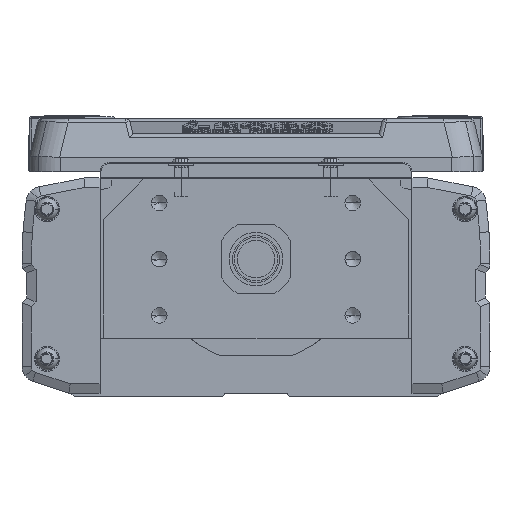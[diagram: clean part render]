
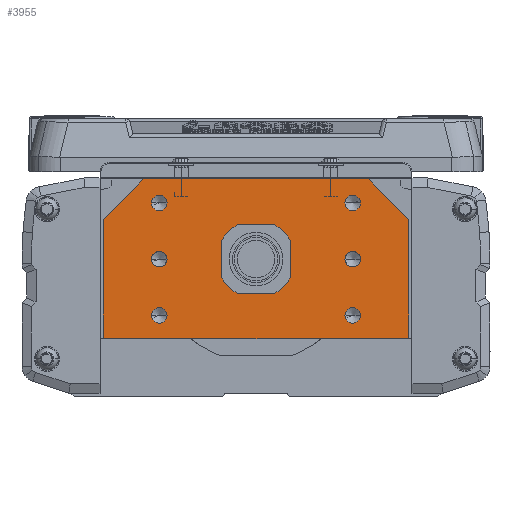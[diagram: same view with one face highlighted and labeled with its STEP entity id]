
A CAD part, left-side view. The second image highlights one B-rep face of the part: STEP entity #3955.
In plain terms, the highlighted planar face has unit normal (-1, 0, 0).
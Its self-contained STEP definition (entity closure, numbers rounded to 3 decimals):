
#3955=ADVANCED_FACE('',(#9556,#9557,#9558,#9559,#9560,#9561,#9562,#9563),#9564,.F.);
#9556=FACE_OUTER_BOUND('',#17373,.T.);
#9557=FACE_BOUND('',#17374,.T.);
#9558=FACE_BOUND('',#17375,.T.);
#9559=FACE_BOUND('',#17376,.T.);
#9560=FACE_BOUND('',#17377,.T.);
#9561=FACE_BOUND('',#17378,.T.);
#9562=FACE_BOUND('',#17379,.T.);
#9563=FACE_BOUND('',#17380,.T.);
#9564=PLANE('',#17381);
#17373=EDGE_LOOP('',(#29738,#29739,#29740,#29741,#29742,#29743,#29744,#29745));
#17374=EDGE_LOOP('',(#29746,#29747));
#17375=EDGE_LOOP('',(#29748,#29749));
#17376=EDGE_LOOP('',(#29750,#29751));
#17377=EDGE_LOOP('',(#29752,#29753));
#17378=EDGE_LOOP('',(#29754,#29755));
#17379=EDGE_LOOP('',(#29756,#29757));
#17380=EDGE_LOOP('',(#29758,#29759));
#17381=AXIS2_PLACEMENT_3D('',#29760,#29761,#29762);
#29738=ORIENTED_EDGE('',*,*,#48532,.F.);
#29739=ORIENTED_EDGE('',*,*,#48533,.F.);
#29740=ORIENTED_EDGE('',*,*,#48534,.F.);
#29741=ORIENTED_EDGE('',*,*,#48535,.F.);
#29742=ORIENTED_EDGE('',*,*,#48536,.F.);
#29743=ORIENTED_EDGE('',*,*,#47782,.F.);
#29744=ORIENTED_EDGE('',*,*,#48047,.F.);
#29745=ORIENTED_EDGE('',*,*,#45180,.F.);
#29746=ORIENTED_EDGE('',*,*,#45393,.T.);
#29747=ORIENTED_EDGE('',*,*,#48537,.T.);
#29748=ORIENTED_EDGE('',*,*,#48538,.T.);
#29749=ORIENTED_EDGE('',*,*,#48539,.T.);
#29750=ORIENTED_EDGE('',*,*,#46534,.T.);
#29751=ORIENTED_EDGE('',*,*,#47362,.T.);
#29752=ORIENTED_EDGE('',*,*,#48540,.T.);
#29753=ORIENTED_EDGE('',*,*,#48541,.T.);
#29754=ORIENTED_EDGE('',*,*,#48542,.T.);
#29755=ORIENTED_EDGE('',*,*,#48543,.T.);
#29756=ORIENTED_EDGE('',*,*,#48544,.T.);
#29757=ORIENTED_EDGE('',*,*,#48545,.T.);
#29758=ORIENTED_EDGE('',*,*,#45774,.F.);
#29759=ORIENTED_EDGE('',*,*,#48546,.F.);
#29760=CARTESIAN_POINT('',(0.,0.275,-2.548));
#29761=DIRECTION('',(1.0,0.,0.));
#29762=DIRECTION('',(0.,1.0,0.));
#45180=EDGE_CURVE('',#53593,#53596,#53597,.T.);
#45393=EDGE_CURVE('',#53970,#53974,#53976,.T.);
#45774=EDGE_CURVE('',#54661,#54656,#54663,.F.);
#46534=EDGE_CURVE('',#55974,#55977,#55979,.T.);
#47362=EDGE_CURVE('',#55977,#55974,#57375,.T.);
#47782=EDGE_CURVE('',#58089,#58092,#58093,.T.);
#48047=EDGE_CURVE('',#53596,#58089,#58506,.T.);
#48532=EDGE_CURVE('',#59317,#53593,#59318,.T.);
#48533=EDGE_CURVE('',#59319,#59317,#59320,.T.);
#48534=EDGE_CURVE('',#59321,#59319,#59322,.T.);
#48535=EDGE_CURVE('',#59323,#59321,#59324,.T.);
#48536=EDGE_CURVE('',#58092,#59323,#59325,.T.);
#48537=EDGE_CURVE('',#53974,#53970,#59326,.T.);
#48538=EDGE_CURVE('',#59327,#59328,#59329,.T.);
#48539=EDGE_CURVE('',#59328,#59327,#59330,.T.);
#48540=EDGE_CURVE('',#59331,#59332,#59333,.T.);
#48541=EDGE_CURVE('',#59332,#59331,#59334,.T.);
#48542=EDGE_CURVE('',#59335,#59336,#59337,.T.);
#48543=EDGE_CURVE('',#59336,#59335,#59338,.T.);
#48544=EDGE_CURVE('',#59339,#59340,#59341,.T.);
#48545=EDGE_CURVE('',#59340,#59339,#59342,.T.);
#48546=EDGE_CURVE('',#54656,#54661,#59343,.F.);
#53593=VERTEX_POINT('',#65848);
#53596=VERTEX_POINT('',#65852);
#53597=LINE('',#65853,#65854);
#53970=VERTEX_POINT('',#66436);
#53974=VERTEX_POINT('',#66441);
#53976=CIRCLE('',#66444,2.5);
#54656=VERTEX_POINT('',#67351);
#54661=VERTEX_POINT('',#67357);
#54663=CIRCLE('',#67360,7.5);
#55974=VERTEX_POINT('',#69133);
#55977=VERTEX_POINT('',#69137);
#55979=CIRCLE('',#69140,2.5);
#57375=CIRCLE('',#72090,2.5);
#58089=VERTEX_POINT('',#73064);
#58092=VERTEX_POINT('',#73068);
#58093=LINE('',#73069,#73070);
#58506=LINE('',#73602,#73603);
#59317=VERTEX_POINT('',#74758);
#59318=LINE('',#74759,#74760);
#59319=VERTEX_POINT('',#74761);
#59320=LINE('',#74762,#74763);
#59321=VERTEX_POINT('',#74764);
#59322=LINE('',#74765,#74766);
#59323=VERTEX_POINT('',#74767);
#59324=LINE('',#74768,#74769);
#59325=LINE('',#74770,#74771);
#59326=CIRCLE('',#74772,2.5);
#59327=VERTEX_POINT('',#74773);
#59328=VERTEX_POINT('',#74774);
#59329=CIRCLE('',#74775,2.5);
#59330=CIRCLE('',#74776,2.5);
#59331=VERTEX_POINT('',#74777);
#59332=VERTEX_POINT('',#74778);
#59333=CIRCLE('',#74779,2.5);
#59334=CIRCLE('',#74780,2.5);
#59335=VERTEX_POINT('',#74781);
#59336=VERTEX_POINT('',#74782);
#59337=CIRCLE('',#74783,2.5);
#59338=CIRCLE('',#74784,2.5);
#59339=VERTEX_POINT('',#74785);
#59340=VERTEX_POINT('',#74786);
#59341=CIRCLE('',#74787,2.5);
#59342=CIRCLE('',#74788,2.5);
#59343=CIRCLE('',#74789,7.5);
#65848=CARTESIAN_POINT('',(0.,36.,25.7));
#65852=CARTESIAN_POINT('',(0.,-36.,25.7));
#65853=CARTESIAN_POINT('',(0.,34.5,25.7));
#65854=VECTOR('',#83794,10.0);
#66436=CARTESIAN_POINT('',(0.,33.5,-18.));
#66441=CARTESIAN_POINT('',(0.,28.5,-18.));
#66444=AXIS2_PLACEMENT_3D('',#84087,#84088,#84089);
#67351=CARTESIAN_POINT('',(0.,-7.5,0.));
#67357=CARTESIAN_POINT('',(0.,7.5,0.));
#67360=AXIS2_PLACEMENT_3D('',#84688,#84689,#84690);
#69133=CARTESIAN_POINT('',(0.,33.5,18.));
#69137=CARTESIAN_POINT('',(0.,28.5,18.));
#69140=AXIS2_PLACEMENT_3D('',#85756,#85757,#85758);
#72090=AXIS2_PLACEMENT_3D('',#86952,#86953,#86954);
#73064=CARTESIAN_POINT('',(0.,-49.,12.7));
#73068=CARTESIAN_POINT('',(0.,-49.,-25.));
#73069=CARTESIAN_POINT('',(0.,-49.,-14.));
#73070=VECTOR('',#87598,10.0);
#73602=CARTESIAN_POINT('',(0.,-37.243,24.457));
#73603=VECTOR('',#87972,10.0);
#74758=CARTESIAN_POINT('',(0.,49.,12.7));
#74759=CARTESIAN_POINT('',(0.,37.381,24.319));
#74760=VECTOR('',#88702,10.);
#74761=CARTESIAN_POINT('',(0.,49.,-25.));
#74762=CARTESIAN_POINT('',(0.,49.,-25.));
#74763=VECTOR('',#88703,10.0);
#74764=CARTESIAN_POINT('',(0.,48.5,-25.5));
#74765=CARTESIAN_POINT('',(0.,48.5,-25.5));
#74766=VECTOR('',#88704,10.0);
#74767=CARTESIAN_POINT('',(0.,-48.5,-25.5));
#74768=CARTESIAN_POINT('',(0.,0.,-25.5));
#74769=VECTOR('',#88705,10.0);
#74770=CARTESIAN_POINT('',(0.,-49.,-25.));
#74771=VECTOR('',#88706,10.0);
#74772=AXIS2_PLACEMENT_3D('',#88707,#88708,#88709);
#74773=CARTESIAN_POINT('',(0.,-33.5,-18.));
#74774=CARTESIAN_POINT('',(0.,-28.5,-18.));
#74775=AXIS2_PLACEMENT_3D('',#88710,#88711,#88712);
#74776=AXIS2_PLACEMENT_3D('',#88713,#88714,#88715);
#74777=CARTESIAN_POINT('',(0.,-33.5,18.));
#74778=CARTESIAN_POINT('',(0.,-28.5,18.));
#74779=AXIS2_PLACEMENT_3D('',#88716,#88717,#88718);
#74780=AXIS2_PLACEMENT_3D('',#88719,#88720,#88721);
#74781=CARTESIAN_POINT('',(0.,33.5,0.));
#74782=CARTESIAN_POINT('',(0.,28.5,0.));
#74783=AXIS2_PLACEMENT_3D('',#88722,#88723,#88724);
#74784=AXIS2_PLACEMENT_3D('',#88725,#88726,#88727);
#74785=CARTESIAN_POINT('',(0.,-33.5,0.));
#74786=CARTESIAN_POINT('',(0.,-28.5,0.));
#74787=AXIS2_PLACEMENT_3D('',#88728,#88729,#88730);
#74788=AXIS2_PLACEMENT_3D('',#88731,#88732,#88733);
#74789=AXIS2_PLACEMENT_3D('',#88734,#88735,#88736);
#83794=DIRECTION('',(0.,-1.0,0.));
#84087=CARTESIAN_POINT('',(0.,31.,-18.));
#84088=DIRECTION('',(1.0,0.,0.));
#84089=DIRECTION('',(0.,1.0,0.));
#84688=CARTESIAN_POINT('',(0.,0.,0.));
#84689=DIRECTION('',(1.0,0.,0.));
#84690=DIRECTION('',(0.,-1.0,0.));
#85756=CARTESIAN_POINT('',(0.,31.,18.));
#85757=DIRECTION('',(1.0,0.,0.));
#85758=DIRECTION('',(0.,1.0,0.));
#86952=CARTESIAN_POINT('',(0.,31.,18.));
#86953=DIRECTION('',(1.0,0.,0.));
#86954=DIRECTION('',(0.,1.0,0.));
#87598=DIRECTION('',(0.,0.,-1.0));
#87972=DIRECTION('',(0.,-0.707,-0.707));
#88702=DIRECTION('',(0.,-0.707,0.707));
#88703=DIRECTION('',(0.,0.,1.0));
#88704=DIRECTION('',(0.,0.707,0.707));
#88705=DIRECTION('',(0.,1.0,0.));
#88706=DIRECTION('',(0.,0.707,-0.707));
#88707=CARTESIAN_POINT('',(0.,31.,-18.));
#88708=DIRECTION('',(1.0,0.,0.));
#88709=DIRECTION('',(0.,1.0,0.));
#88710=CARTESIAN_POINT('',(0.,-31.,-18.));
#88711=DIRECTION('',(1.0,0.,0.));
#88712=DIRECTION('',(0.,-1.0,0.));
#88713=CARTESIAN_POINT('',(0.,-31.,-18.));
#88714=DIRECTION('',(1.0,0.,0.));
#88715=DIRECTION('',(0.,-1.0,0.));
#88716=CARTESIAN_POINT('',(0.,-31.,18.));
#88717=DIRECTION('',(1.0,0.,0.));
#88718=DIRECTION('',(0.,-1.0,0.));
#88719=CARTESIAN_POINT('',(0.,-31.,18.));
#88720=DIRECTION('',(1.0,0.,0.));
#88721=DIRECTION('',(0.,-1.0,0.));
#88722=CARTESIAN_POINT('',(0.,31.,0.));
#88723=DIRECTION('',(1.0,0.,0.));
#88724=DIRECTION('',(0.,1.0,0.));
#88725=CARTESIAN_POINT('',(0.,31.,0.));
#88726=DIRECTION('',(1.0,0.,0.));
#88727=DIRECTION('',(0.,1.0,0.));
#88728=CARTESIAN_POINT('',(0.,-31.,0.));
#88729=DIRECTION('',(1.0,0.,0.));
#88730=DIRECTION('',(0.,-1.0,0.));
#88731=CARTESIAN_POINT('',(0.,-31.,0.));
#88732=DIRECTION('',(1.0,0.,0.));
#88733=DIRECTION('',(0.,-1.0,0.));
#88734=CARTESIAN_POINT('',(0.,0.,0.));
#88735=DIRECTION('',(1.0,0.,0.));
#88736=DIRECTION('',(0.,-1.0,0.));
